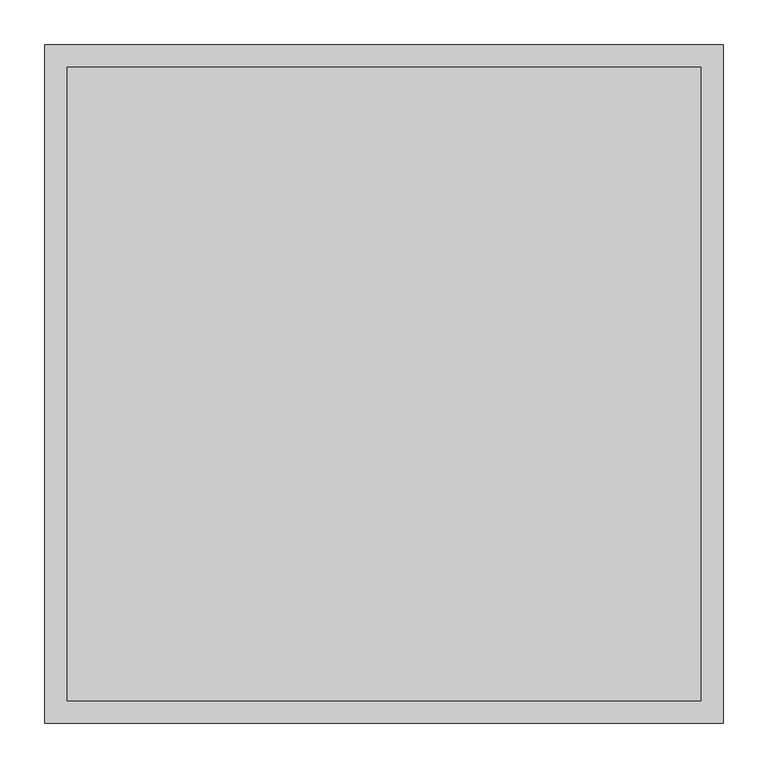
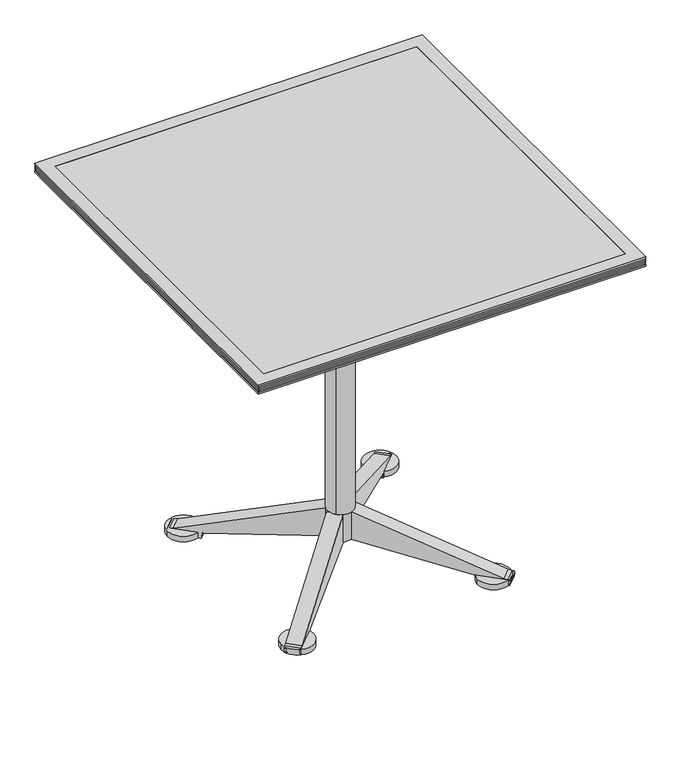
"""IFC4 building model written with IfcOpenShell, lengths in millimetres: furniture geometry, Coalesse_AM_Table_Conference_Ballet_Square : 30L x 30W - Flip/Glide."""

from ifc_helpers import new_model, si_unit, point, frame, frame_2d, origin, origin_with_axes, place, context, project, spatial, polyline, circle_curve, trimmed, segment, composite_curve, outline, extrude, faceted_brep, source, transform, mapped, element, save


def furniture_2d3e260a(model_context):
    return source(origin(), model_context, "Body", "SolidModel", [
        extrude(outline(composite_curve([segment(trimmed(circle_curve(frame_2d((-194.715793, 197.3207687)), 31.75), [point((-226.465793, 197.3207687))], [point((-162.965793, 197.3207687))], False, "CARTESIAN"), True, "CONTINUOUS"), segment(trimmed(circle_curve(frame_2d((-194.715793, 197.3207687)), 31.75), [point((-162.965793, 197.3207687))], [point((-226.465793, 197.3207687))], False, "CARTESIAN"), True, "CONTINUOUS")], self_intersect=False)), frame((0.0, 0.0, 4.2904479), z_axis=(0.0, 0.0, 1.0), x_axis=(1.0, 0.0, 0.0)), (0.0, 0.0, 1.0), 11.3833531),
        extrude(outline(composite_curve([segment(trimmed(circle_curve(frame_2d((191.7194605, 196.5270187)), 31.75), [point((159.9694605, 196.5270187))], [point((223.4694605, 196.5270187))], False, "CARTESIAN"), True, "CONTINUOUS"), segment(trimmed(circle_curve(frame_2d((191.7194605, 196.5270187)), 31.75), [point((223.4694605, 196.5270187))], [point((159.9694605, 196.5270187))], False, "CARTESIAN"), True, "CONTINUOUS")], self_intersect=False)), frame((0.0, 0.0, 4.2904479), z_axis=(0.0, 0.0, 1.0), x_axis=(1.0, 0.0, 0.0)), (0.0, 0.0, 1.0), 11.3833531),
        extrude(outline(composite_curve([segment(trimmed(circle_curve(frame_2d((-194.715793, -191.2787692)), 31.75), [point((-226.465793, -191.2787692))], [point((-162.965793, -191.2787692))], False, "CARTESIAN"), True, "CONTINUOUS"), segment(trimmed(circle_curve(frame_2d((-194.715793, -191.2787692)), 31.75), [point((-162.965793, -191.2787692))], [point((-226.465793, -191.2787692))], False, "CARTESIAN"), True, "CONTINUOUS")], self_intersect=False)), frame((0.0, 0.0, 4.2904479), z_axis=(0.0, 0.0, 1.0), x_axis=(1.0, 0.0, 0.0)), (0.0, 0.0, 1.0), 11.3833531),
        extrude(outline(composite_curve([segment(trimmed(circle_curve(frame_2d((191.7194605, -190.4850192)), 31.75), [point((159.9694605, -190.4850192))], [point((223.4694605, -190.4850192))], False, "CARTESIAN"), True, "CONTINUOUS"), segment(trimmed(circle_curve(frame_2d((191.7194605, -190.4850192)), 31.75), [point((223.4694605, -190.4850192))], [point((159.9694605, -190.4850192))], False, "CARTESIAN"), True, "CONTINUOUS")], self_intersect=False)), frame((0.0, 0.0, 4.2904479), z_axis=(0.0, 0.0, 1.0), x_axis=(1.0, 0.0, 0.0)), (0.0, 0.0, 1.0), 11.3833531),
        extrude(outline(composite_curve([segment(polyline([(-57.749273, 0.0), (0.0, 0.0), (-90.9931074, -269.8641919), (-92.3030079, -279.1846177)]), True, "CONTINUOUS"), segment(trimmed(circle_curve(frame_2d((-93.9206951, -278.9572666)), 1.6335852), [point((-92.3030079, -279.1846177))], [point((-93.8206014, -280.5877823))], False, "CARTESIAN"), True, "CONTINUOUS"), segment(trimmed(circle_curve(frame_2d((-95.8523928, -247.4901147)), 33.1599725), [point((-93.8206014, -280.5877823))], [point((-101.682402, -280.1335639))], False, "CARTESIAN"), True, "CONTINUOUS"), segment(trimmed(circle_curve(frame_2d((-101.2796868, -277.8786768)), 2.2905666), [point((-101.682402, -280.1335639))], [point((-103.5674671, -277.7657306))], False, "CARTESIAN"), True, "CONTINUOUS"), segment(polyline([(-103.5674671, -277.7657306), (-103.5674671, -222.4322812)]), True, "CONTINUOUS"), segment(trimmed(circle_curve(frame_2d((-100.6154331, -221.9840334)), 2.9858719), [point((-103.5674671, -222.4322812))], [point((-100.2998684, -219.0148838))], False, "CARTESIAN"), True, "CONTINUOUS"), segment(trimmed(circle_curve(frame_2d((-98.3053249, -200.2482144)), 18.872363), [point((-100.2998684, -219.0148838))], [point((-94.5016021, -218.7332835))], True, "CARTESIAN"), True, "CONTINUOUS"), segment(trimmed(circle_curve(frame_2d((-95.1495986, -215.5841949)), 3.2150673), [point((-94.5016021, -218.7332835))], [point((-91.9741141, -216.0871422))], True, "CARTESIAN"), True, "CONTINUOUS"), segment(polyline([(-91.9741141, -216.0871422), (-57.749273, 0.0)]), True, "CONTINUOUS")], self_intersect=False)), frame((-23.5273141, 7.7834997, 107.857915), z_axis=(0.7071067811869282, 0.707106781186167, 0.0), x_axis=(0.0, 0.0, 1.0)), (0.0, 0.0, 1.0), 29.2174476),
        extrude(outline(composite_curve([segment(polyline([(-57.749273, 44.2801775), (-91.9741141, 260.3673198)]), True, "CONTINUOUS"), segment(trimmed(circle_curve(frame_2d((-95.1495986, 259.8643724)), 3.2150673), [point((-91.9741141, 260.3673198))], [point((-94.5016021, 263.013461))], True, "CARTESIAN"), True, "CONTINUOUS"), segment(trimmed(circle_curve(frame_2d((-98.3053249, 244.5283919)), 18.872363), [point((-94.5016021, 263.013461))], [point((-100.2998684, 263.2950613))], True, "CARTESIAN"), True, "CONTINUOUS"), segment(trimmed(circle_curve(frame_2d((-100.6154331, 266.2642109)), 2.9858719), [point((-100.2998684, 263.2950613))], [point((-103.5674671, 266.7124587))], False, "CARTESIAN"), True, "CONTINUOUS"), segment(polyline([(-103.5674671, 266.7124587), (-103.5674671, 322.0459081)]), True, "CONTINUOUS"), segment(trimmed(circle_curve(frame_2d((-101.2796868, 322.1588543)), 2.2905666), [point((-103.5674671, 322.0459081))], [point((-101.682402, 324.4137415))], False, "CARTESIAN"), True, "CONTINUOUS"), segment(trimmed(circle_curve(frame_2d((-95.8523928, 291.7702923)), 33.1599725), [point((-101.682402, 324.4137415))], [point((-93.8206014, 324.8679598))], False, "CARTESIAN"), True, "CONTINUOUS"), segment(trimmed(circle_curve(frame_2d((-93.9206951, 323.2374442)), 1.6335852), [point((-93.8206014, 324.8679598))], [point((-92.3030079, 323.4647953))], False, "CARTESIAN"), True, "CONTINUOUS"), segment(polyline([(-92.3030079, 323.4647953), (-90.9931074, 314.1443694), (0.0, 44.2801775), (-57.749273, 44.2801775)]), True, "CONTINUOUS")], self_intersect=False)), frame((-23.5273141, 7.7834997, 107.857915), z_axis=(0.7071067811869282, 0.707106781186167, 0.0), x_axis=(0.0, 0.0, 1.0)), (0.0, 0.0, 1.0), 29.2174476),
        extrude(outline(composite_curve([segment(polyline([(-57.749273, 0.0), (0.0, 0.0), (-90.9931074, -269.8641919), (-92.3030079, -279.1846177)]), True, "CONTINUOUS"), segment(trimmed(circle_curve(frame_2d((-93.9206951, -278.9572666)), 1.6335852), [point((-92.3030079, -279.1846177))], [point((-93.8206014, -280.5877823))], False, "CARTESIAN"), True, "CONTINUOUS"), segment(trimmed(circle_curve(frame_2d((-95.8523928, -247.4901147)), 33.1599725), [point((-93.8206014, -280.5877823))], [point((-101.682402, -280.1335639))], False, "CARTESIAN"), True, "CONTINUOUS"), segment(trimmed(circle_curve(frame_2d((-101.2796868, -277.8786768)), 2.2905666), [point((-101.682402, -280.1335639))], [point((-103.5674671, -277.7657306))], False, "CARTESIAN"), True, "CONTINUOUS"), segment(polyline([(-103.5674671, -277.7657306), (-103.5674671, -222.4322812)]), True, "CONTINUOUS"), segment(trimmed(circle_curve(frame_2d((-100.6154331, -221.9840334)), 2.9858719), [point((-103.5674671, -222.4322812))], [point((-100.2998684, -219.0148838))], False, "CARTESIAN"), True, "CONTINUOUS"), segment(trimmed(circle_curve(frame_2d((-98.3053249, -200.2482144)), 18.872363), [point((-100.2998684, -219.0148838))], [point((-94.5016021, -218.7332835))], True, "CARTESIAN"), True, "CONTINUOUS"), segment(trimmed(circle_curve(frame_2d((-95.1495986, -215.5841949)), 3.2150673), [point((-94.5016021, -218.7332835))], [point((-91.9741141, -216.0871422))], True, "CARTESIAN"), True, "CONTINUOUS"), segment(polyline([(-91.9741141, -216.0871422), (-57.749273, 0.0)]), True, "CONTINUOUS")], self_intersect=False)), frame((-7.7834997, -23.5273141, 107.857915), z_axis=(-0.7071067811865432, 0.7071067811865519, 0.0), x_axis=(0.0, 0.0, 1.0)), (0.0, 0.0, 1.0), 29.2174476),
        extrude(outline(composite_curve([segment(polyline([(-57.749273, 44.2801775), (-91.9741141, 260.3673198)]), True, "CONTINUOUS"), segment(trimmed(circle_curve(frame_2d((-95.1495986, 259.8643724)), 3.2150673), [point((-91.9741141, 260.3673198))], [point((-94.5016021, 263.013461))], True, "CARTESIAN"), True, "CONTINUOUS"), segment(trimmed(circle_curve(frame_2d((-98.3053249, 244.5283919)), 18.872363), [point((-94.5016021, 263.013461))], [point((-100.2998684, 263.2950613))], True, "CARTESIAN"), True, "CONTINUOUS"), segment(trimmed(circle_curve(frame_2d((-100.6154331, 266.2642109)), 2.9858719), [point((-100.2998684, 263.2950613))], [point((-103.5674671, 266.7124587))], False, "CARTESIAN"), True, "CONTINUOUS"), segment(polyline([(-103.5674671, 266.7124587), (-103.5674671, 322.0459081)]), True, "CONTINUOUS"), segment(trimmed(circle_curve(frame_2d((-101.2796868, 322.1588543)), 2.2905666), [point((-103.5674671, 322.0459081))], [point((-101.682402, 324.4137415))], False, "CARTESIAN"), True, "CONTINUOUS"), segment(trimmed(circle_curve(frame_2d((-95.8523928, 291.7702923)), 33.1599725), [point((-101.682402, 324.4137415))], [point((-93.8206014, 324.8679598))], False, "CARTESIAN"), True, "CONTINUOUS"), segment(trimmed(circle_curve(frame_2d((-93.9206951, 323.2374442)), 1.6335852), [point((-93.8206014, 324.8679598))], [point((-92.3030079, 323.4647953))], False, "CARTESIAN"), True, "CONTINUOUS"), segment(polyline([(-92.3030079, 323.4647953), (-90.9931074, 314.1443694), (0.0, 44.2801775), (-57.749273, 44.2801775)]), True, "CONTINUOUS")], self_intersect=False)), frame((-7.7834997, -23.5273141, 107.857915), z_axis=(-0.7071067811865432, 0.7071067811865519, 0.0), x_axis=(0.0, 0.0, 1.0)), (0.0, 0.0, 1.0), 29.2174476),
        extrude(outline(composite_curve([segment(polyline([(-57.749273, 0.0), (0.0, 0.0), (-90.9931074, -269.8641919), (-92.3030079, -279.1846177)]), True, "CONTINUOUS"), segment(trimmed(circle_curve(frame_2d((-93.9206951, -278.9572666)), 1.6335852), [point((-92.3030079, -279.1846177))], [point((-93.8206014, -280.5877823))], False, "CARTESIAN"), True, "CONTINUOUS"), segment(trimmed(circle_curve(frame_2d((-95.8523928, -247.4901147)), 33.1599725), [point((-93.8206014, -280.5877823))], [point((-101.682402, -280.1335639))], False, "CARTESIAN"), True, "CONTINUOUS"), segment(trimmed(circle_curve(frame_2d((-101.2796868, -277.8786768)), 2.2905666), [point((-101.682402, -280.1335639))], [point((-103.5674671, -277.7657306))], False, "CARTESIAN"), True, "CONTINUOUS"), segment(polyline([(-103.5674671, -277.7657306), (-103.5674671, -222.4322812)]), True, "CONTINUOUS"), segment(trimmed(circle_curve(frame_2d((-100.6154331, -221.9840334)), 2.9858719), [point((-103.5674671, -222.4322812))], [point((-100.2998684, -219.0148838))], False, "CARTESIAN"), True, "CONTINUOUS"), segment(trimmed(circle_curve(frame_2d((-98.3053249, -200.2482144)), 18.872363), [point((-100.2998684, -219.0148838))], [point((-94.5016021, -218.7332835))], True, "CARTESIAN"), True, "CONTINUOUS"), segment(trimmed(circle_curve(frame_2d((-95.1495986, -215.5841949)), 3.2150673), [point((-94.5016021, -218.7332835))], [point((-91.9741141, -216.0871422))], True, "CARTESIAN"), True, "CONTINUOUS"), segment(polyline([(-91.9741141, -216.0871422), (-57.749273, 0.0)]), True, "CONTINUOUS")], self_intersect=False)), frame((-23.5273141, 7.7834997, 107.857915), z_axis=(0.7071067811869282, 0.707106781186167, 0.0), x_axis=(0.0, 0.0, 1.0)), (0.0, 0.0, 1.0), 29.2174476),
        extrude(outline(composite_curve([segment(polyline([(-57.749273, 44.2801775), (-91.9741141, 260.3673198)]), True, "CONTINUOUS"), segment(trimmed(circle_curve(frame_2d((-95.1495986, 259.8643724)), 3.2150673), [point((-91.9741141, 260.3673198))], [point((-94.5016021, 263.013461))], True, "CARTESIAN"), True, "CONTINUOUS"), segment(trimmed(circle_curve(frame_2d((-98.3053249, 244.5283919)), 18.872363), [point((-94.5016021, 263.013461))], [point((-100.2998684, 263.2950613))], True, "CARTESIAN"), True, "CONTINUOUS"), segment(trimmed(circle_curve(frame_2d((-100.6154331, 266.2642109)), 2.9858719), [point((-100.2998684, 263.2950613))], [point((-103.5674671, 266.7124587))], False, "CARTESIAN"), True, "CONTINUOUS"), segment(polyline([(-103.5674671, 266.7124587), (-103.5674671, 322.0459081)]), True, "CONTINUOUS"), segment(trimmed(circle_curve(frame_2d((-101.2796868, 322.1588543)), 2.2905666), [point((-103.5674671, 322.0459081))], [point((-101.682402, 324.4137415))], False, "CARTESIAN"), True, "CONTINUOUS"), segment(trimmed(circle_curve(frame_2d((-95.8523928, 291.7702923)), 33.1599725), [point((-101.682402, 324.4137415))], [point((-93.8206014, 324.8679598))], False, "CARTESIAN"), True, "CONTINUOUS"), segment(trimmed(circle_curve(frame_2d((-93.9206951, 323.2374442)), 1.6335852), [point((-93.8206014, 324.8679598))], [point((-92.3030079, 323.4647953))], False, "CARTESIAN"), True, "CONTINUOUS"), segment(polyline([(-92.3030079, 323.4647953), (-90.9931074, 314.1443694), (0.0, 44.2801775), (-57.749273, 44.2801775)]), True, "CONTINUOUS")], self_intersect=False)), frame((-23.5273141, 7.7834997, 107.857915), z_axis=(0.7071067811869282, 0.707106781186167, 0.0), x_axis=(0.0, 0.0, 1.0)), (0.0, 0.0, 1.0), 29.2174476),
        extrude(outline(composite_curve([segment(polyline([(-57.749273, 0.0), (0.0, 0.0), (-90.9931074, -269.8641919), (-92.3030079, -279.1846177)]), True, "CONTINUOUS"), segment(trimmed(circle_curve(frame_2d((-93.9206951, -278.9572666)), 1.6335852), [point((-92.3030079, -279.1846177))], [point((-93.8206014, -280.5877823))], False, "CARTESIAN"), True, "CONTINUOUS"), segment(trimmed(circle_curve(frame_2d((-95.8523928, -247.4901147)), 33.1599725), [point((-93.8206014, -280.5877823))], [point((-101.682402, -280.1335639))], False, "CARTESIAN"), True, "CONTINUOUS"), segment(trimmed(circle_curve(frame_2d((-101.2796868, -277.8786768)), 2.2905666), [point((-101.682402, -280.1335639))], [point((-103.5674671, -277.7657306))], False, "CARTESIAN"), True, "CONTINUOUS"), segment(polyline([(-103.5674671, -277.7657306), (-103.5674671, -222.4322812)]), True, "CONTINUOUS"), segment(trimmed(circle_curve(frame_2d((-100.6154331, -221.9840334)), 2.9858719), [point((-103.5674671, -222.4322812))], [point((-100.2998684, -219.0148838))], False, "CARTESIAN"), True, "CONTINUOUS"), segment(trimmed(circle_curve(frame_2d((-98.3053249, -200.2482144)), 18.872363), [point((-100.2998684, -219.0148838))], [point((-94.5016021, -218.7332835))], True, "CARTESIAN"), True, "CONTINUOUS"), segment(trimmed(circle_curve(frame_2d((-95.1495986, -215.5841949)), 3.2150673), [point((-94.5016021, -218.7332835))], [point((-91.9741141, -216.0871422))], True, "CARTESIAN"), True, "CONTINUOUS"), segment(polyline([(-91.9741141, -216.0871422), (-57.749273, 0.0)]), True, "CONTINUOUS")], self_intersect=False)), frame((-7.7834997, -23.5273141, 107.857915), z_axis=(-0.7071067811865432, 0.7071067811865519, 0.0), x_axis=(0.0, 0.0, 1.0)), (0.0, 0.0, 1.0), 29.2174476),
        extrude(outline(composite_curve([segment(polyline([(-57.749273, 44.2801775), (-91.9741141, 260.3673198)]), True, "CONTINUOUS"), segment(trimmed(circle_curve(frame_2d((-95.1495986, 259.8643724)), 3.2150673), [point((-91.9741141, 260.3673198))], [point((-94.5016021, 263.013461))], True, "CARTESIAN"), True, "CONTINUOUS"), segment(trimmed(circle_curve(frame_2d((-98.3053249, 244.5283919)), 18.872363), [point((-94.5016021, 263.013461))], [point((-100.2998684, 263.2950613))], True, "CARTESIAN"), True, "CONTINUOUS"), segment(trimmed(circle_curve(frame_2d((-100.6154331, 266.2642109)), 2.9858719), [point((-100.2998684, 263.2950613))], [point((-103.5674671, 266.7124587))], False, "CARTESIAN"), True, "CONTINUOUS"), segment(polyline([(-103.5674671, 266.7124587), (-103.5674671, 322.0459081)]), True, "CONTINUOUS"), segment(trimmed(circle_curve(frame_2d((-101.2796868, 322.1588543)), 2.2905666), [point((-103.5674671, 322.0459081))], [point((-101.682402, 324.4137415))], False, "CARTESIAN"), True, "CONTINUOUS"), segment(trimmed(circle_curve(frame_2d((-95.8523928, 291.7702923)), 33.1599725), [point((-101.682402, 324.4137415))], [point((-93.8206014, 324.8679598))], False, "CARTESIAN"), True, "CONTINUOUS"), segment(trimmed(circle_curve(frame_2d((-93.9206951, 323.2374442)), 1.6335852), [point((-93.8206014, 324.8679598))], [point((-92.3030079, 323.4647953))], False, "CARTESIAN"), True, "CONTINUOUS"), segment(polyline([(-92.3030079, 323.4647953), (-90.9931074, 314.1443694), (0.0, 44.2801775), (-57.749273, 44.2801775)]), True, "CONTINUOUS")], self_intersect=False)), frame((-7.7834997, -23.5273141, 107.857915), z_axis=(-0.7071067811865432, 0.7071067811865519, 0.0), x_axis=(0.0, 0.0, 1.0)), (0.0, 0.0, 1.0), 29.2174476),
        extrude(outline(composite_curve([segment(trimmed(circle_curve(frame_2d((1.04e-05, -1.04e-05)), 25.3999999), [point((-17.9605018, -17.9605225))], [point((17.9605225, 17.9605018))], False, "CARTESIAN"), True, "CONTINUOUS"), segment(trimmed(circle_curve(frame_2d((1.04e-05, -1.04e-05)), 25.3999999), [point((17.9605225, 17.9605018))], [point((-17.9605018, -17.9605225))], False, "CARTESIAN"), True, "CONTINUOUS")], self_intersect=False)), frame((0.0, 0.0, 607.6784119), z_axis=(0.0, 0.0, 1.0), x_axis=(1.0, 0.0, 0.0)), (0.0, 0.0, 1.0), 50.3081696),
        extrude(outline(polyline([(158.4621346, 17.0356733), (169.8930132, 8.1048922), (169.8930132, 0.8331186), (159.98106, -9.0788345), (38.5409959, -9.0788345), (28.462086, 1.0000754), (28.462086, 7.6856478), (37.8121114, 17.0356733), (158.4621346, 17.0356733)])), frame((0.0, 0.0, 687.2912849), z_axis=(0.0, 0.0, 1.0), x_axis=(1.0, 0.0, 0.0)), (0.0, 0.0, 1.0), 6.5168503),
        extrude(outline(composite_curve([segment(trimmed(circle_curve(frame_2d((669.1002966, -84.2761543)), 7.8975043), [point((669.1002966, -92.1736586))], [point((669.1002966, -76.3786501))], False, "CARTESIAN"), True, "CONTINUOUS"), segment(trimmed(circle_curve(frame_2d((669.1002966, -84.2761543)), 7.8975043), [point((669.1002966, -76.3786501))], [point((669.1002966, -92.1736586))], False, "CARTESIAN"), True, "CONTINUOUS")], self_intersect=False)), frame((0.0, -102.0227757, 0.0), z_axis=(0.0, 1.0, 0.0), x_axis=(0.0, 0.0, 1.0)), (0.0, 0.0, 1.0), 207.3263413),
        extrude(outline(polyline([(77.1619615, -102.0227757), (72.7168839, -102.0227757), (72.7168839, 105.3035655), (77.1619615, 105.3035655), (77.1619615, -102.0227757)])), frame((0.0, 0.0, 657.9865814), z_axis=(0.0, 0.0, 1.0), x_axis=(1.0, 0.0, 0.0)), (0.0, 0.0, 1.0), 25.6753708),
        extrude(outline(polyline([(105.3035655, 652.7037643), (101.8153095, 652.7037643), (101.8153095, 700.0114872), (-94.3997971, 700.0114872), (-94.3997971, 652.7037643), (-97.8879563, 652.7037643), (-97.8879563, 704.85), (105.3035655, 704.85), (105.3035655, 652.7037643)])), frame((-111.7977681, 0.0, 0.0), z_axis=(1.0, 0.0, 0.0), x_axis=(0.0, 1.0, 0.0)), (0.0, 0.0, 1.0), 220.3746008),
        extrude(outline(polyline([(-91.8596905, 688.7419716), (99.2752998, 688.7419716), (99.2752998, 652.7037643), (94.1954742, 652.7037643), (94.1954742, 683.6619522), (-86.7795016, 683.6619522), (-86.7795016, 652.7037643), (-91.8596905, 652.7037643), (-91.8596905, 688.7419716)])), frame((-111.7977681, 0.0, 0.0), z_axis=(1.0, 0.0, 0.0), x_axis=(0.0, 1.0, 0.0)), (0.0, 0.0, 1.0), 220.3746008),
        extrude(outline(composite_curve([segment(trimmed(circle_curve(frame_2d((1.04e-05, -1.04e-05)), 25.3999999), [point((-17.9605018, -17.9605225))], [point((17.9605225, 17.9605018))], False, "CARTESIAN"), True, "CONTINUOUS"), segment(trimmed(circle_curve(frame_2d((1.04e-05, -1.04e-05)), 25.3999999), [point((17.9605225, 17.9605018))], [point((-17.9605018, -17.9605225))], False, "CARTESIAN"), True, "CONTINUOUS")], self_intersect=False)), frame((0.0, 0.0, 107.857915), z_axis=(0.0, 0.0, 1.0), x_axis=(1.0, 0.0, 0.0)), (0.0, 0.0, 1.0), 499.8204968),
        extrude(outline(composite_curve([segment(trimmed(circle_curve(frame_2d((192.2336051, -190.6461051)), 25.4), [point((174.2730929, -208.6066174))], [point((210.1941174, -172.6855929))], False, "CARTESIAN"), True, "CONTINUOUS"), segment(trimmed(circle_curve(frame_2d((192.2336051, -190.6461051)), 25.4), [point((210.1941174, -172.6855929))], [point((174.2730929, -208.6066174))], False, "CARTESIAN"), True, "CONTINUOUS")], self_intersect=False)), origin_with_axes(), (0.0, 0.0, 1.0), 4.2904479),
        extrude(outline(composite_curve([segment(trimmed(circle_curve(frame_2d((192.2336051, 196.9961051)), 25.4), [point((174.2730929, 179.0355929))], [point((210.1941174, 214.9566174))], False, "CARTESIAN"), True, "CONTINUOUS"), segment(trimmed(circle_curve(frame_2d((192.2336051, 196.9961051)), 25.4), [point((210.1941174, 214.9566174))], [point((174.2730929, 179.0355929))], False, "CARTESIAN"), True, "CONTINUOUS")], self_intersect=False)), origin_with_axes(), (0.0, 0.0, 1.0), 4.2904479),
        extrude(outline(composite_curve([segment(trimmed(circle_curve(frame_2d((-194.6148551, -191.4398551)), 25.4), [point((-212.5753674, -209.4003674))], [point((-176.6543429, -173.4793429))], False, "CARTESIAN"), True, "CONTINUOUS"), segment(trimmed(circle_curve(frame_2d((-194.6148551, -191.4398551)), 25.4), [point((-176.6543429, -173.4793429))], [point((-212.5753674, -209.4003674))], False, "CARTESIAN"), True, "CONTINUOUS")], self_intersect=False)), origin_with_axes(), (0.0, 0.0, 1.0), 4.2904479),
        extrude(outline(composite_curve([segment(trimmed(circle_curve(frame_2d((-194.2179801, 197.3929801)), 25.4), [point((-212.1784924, 179.4324679))], [point((-176.2574679, 215.3534924))], False, "CARTESIAN"), True, "CONTINUOUS"), segment(trimmed(circle_curve(frame_2d((-194.2179801, 197.3929801)), 25.4), [point((-176.2574679, 215.3534924))], [point((-212.1784924, 179.4324679))], False, "CARTESIAN"), True, "CONTINUOUS")], self_intersect=False)), origin_with_axes(), (0.0, 0.0, 1.0), 4.2904479),
        extrude(outline(composite_curve([segment(trimmed(circle_curve(frame_2d((1.04e-05, -1.04e-05)), 25.3999999), [point((-17.9605018, -17.9605225))], [point((17.9605225, 17.9605018))], False, "CARTESIAN"), True, "CONTINUOUS"), segment(trimmed(circle_curve(frame_2d((1.04e-05, -1.04e-05)), 25.3999999), [point((17.9605225, 17.9605018))], [point((-17.9605018, -17.9605225))], False, "CARTESIAN"), True, "CONTINUOUS")], self_intersect=False)), frame((0.0, 0.0, 50.8000015), z_axis=(0.0, 0.0, 1.0), x_axis=(1.0, 0.0, 0.0)), (0.0, 0.0, 1.0), 556.8784104),
        faceted_brep([(-381.0003633, 381.0, 704.85), (-355.6003876, 355.6000242, 698.5000242), (-355.6003876, -355.5999516, 698.5000242), (-381.0003633, -380.9999273, 704.85), (-381.0003633, 381.0, 708.0250242), (-381.0003633, -380.9999273, 708.0250242), (-377.8253755, 377.8250121, 709.6125), (-377.8253755, -377.8249394, 709.6125), (-381.0003633, 381.0, 711.1999758), (-381.0003633, -380.9999273, 711.1999758), (-377.8253755, 377.8250121, 712.7875242), (-377.8253755, -377.8249394, 712.7875242), (-381.0003633, 381.0, 714.375), (-381.0003633, -380.9999273, 714.375), (-377.8253755, 377.8250121, 715.9624758), (-377.8253755, -377.8249394, 715.9624758), (-381.0003633, 381.0, 717.5500242), (-381.0003633, -380.9999273, 717.5500242), (-377.8253755, 377.8250121, 719.1375), (-377.8253755, -377.8249394, 719.1375), (-381.0003633, 381.0, 720.7249758), (-381.0003633, -380.9999273, 720.7249758), (-381.0003633, 381.0, 723.9), (-381.0003633, -380.9999273, 723.9), (-355.6003876, 355.6000242, 723.9), (-355.6003876, -355.5999516, 723.9), (355.5998062, -355.5999516, 698.5000242), (380.999782, -380.9999273, 704.85), (380.999782, -380.9999273, 708.0250242), (377.8247941, -377.8249394, 709.6125), (380.999782, -380.9999273, 711.1999758), (377.8247941, -377.8249394, 712.7875242), (380.999782, -380.9999273, 714.375), (377.8247941, -377.8249394, 715.9624758), (380.999782, -380.9999273, 717.5500242), (377.8247941, -377.8249394, 719.1375), (380.999782, -380.9999273, 720.7249758), (380.999782, -380.9999273, 723.9), (355.5998062, -355.5999516, 723.9), (355.5998062, 355.6000242, 698.5000242), (380.999782, 381.0, 704.85), (380.999782, 381.0, 708.0250242), (377.8247941, 377.8250121, 709.6125), (380.999782, 381.0, 711.1999758), (377.8247941, 377.8250121, 712.7875242), (380.999782, 381.0, 714.375), (377.8247941, 377.8250121, 715.9624758), (380.999782, 381.0, 717.5500242), (377.8247941, 377.8250121, 719.1375), (380.999782, 381.0, 720.7249758), (380.999782, 381.0, 723.9), (355.5998062, 355.6000242, 723.9)], [[[0, 1, 2, 3]], [[4, 0, 3, 5]], [[6, 4, 5, 7]], [[8, 6, 7, 9]], [[10, 8, 9, 11]], [[12, 10, 11, 13]], [[14, 12, 13, 15]], [[16, 14, 15, 17]], [[18, 16, 17, 19]], [[20, 18, 19, 21]], [[22, 20, 21, 23]], [[1, 24, 25, 2]], [[3, 2, 26, 27]], [[5, 3, 27, 28]], [[7, 5, 28, 29]], [[9, 7, 29, 30]], [[11, 9, 30, 31]], [[13, 11, 31, 32]], [[15, 13, 32, 33]], [[17, 15, 33, 34]], [[19, 17, 34, 35]], [[21, 19, 35, 36]], [[23, 21, 36, 37]], [[2, 25, 38, 26]], [[27, 26, 39, 40]], [[28, 27, 40, 41]], [[29, 28, 41, 42]], [[30, 29, 42, 43]], [[31, 30, 43, 44]], [[32, 31, 44, 45]], [[33, 32, 45, 46]], [[34, 33, 46, 47]], [[35, 34, 47, 48]], [[36, 35, 48, 49]], [[37, 36, 49, 50]], [[26, 38, 51, 39]], [[40, 39, 1, 0]], [[41, 40, 0, 4]], [[42, 41, 4, 6]], [[43, 42, 6, 8]], [[44, 43, 8, 10]], [[45, 44, 10, 12]], [[46, 45, 12, 14]], [[47, 46, 14, 16]], [[48, 47, 16, 18]], [[49, 48, 18, 20]], [[50, 49, 20, 22]], [[23, 37, 50, 22], [24, 51, 38, 25]], [[39, 51, 24, 1]]]),
        extrude(outline(polyline([(355.5998062, 355.6000242), (355.5998062, -355.5999516), (-355.6003876, -355.5999516), (-355.6003876, 355.6000242), (355.5998062, 355.6000242)])), frame((0.0, 0.0, 704.85), z_axis=(0.0, 0.0, 1.0), x_axis=(1.0, 0.0, 0.0)), (0.0, 0.0, 1.0), 19.05),
    ])


if __name__ == "__main__":
    model = new_model("IFC4")
    model_context = context("Model", 3, world=origin())
    ifc_project = project(units=[si_unit("LENGTHUNIT", "METRE", prefix="MILLI")], contexts=[model_context])
    site = spatial("IfcSite", under=ifc_project)
    building = spatial("IfcBuilding", under=site)
    placement = place(None, origin())
    furniture_shape = furniture_2d3e260a(model_context)
    element("IfcFurniture", 1, ObjectType="Coalesse_AM_Table_Conference_Ballet_Square : 30L x 30W - Flip/Glide", at=placement, inside=building, context=model_context, shape_type="MappedRepresentation", body=[
        mapped(furniture_shape, transform((0.0, 0.0, 0.0), x_axis=(1.0, 0.0, 0.0), y_axis=(0.0, 1.0, 0.0), z_axis=(0.0, 0.0, 1.0))),
    ])
    save(model, "model.ifc")
